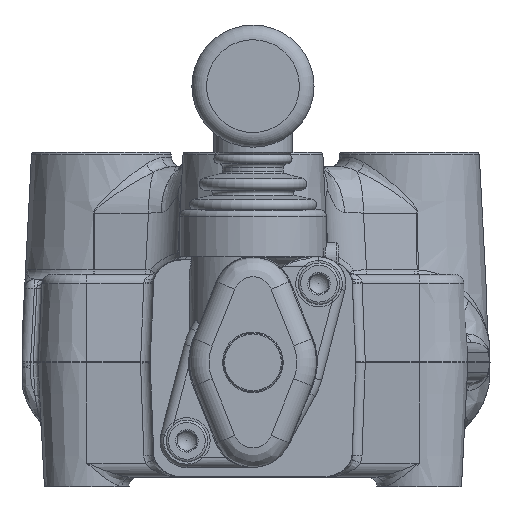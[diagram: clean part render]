
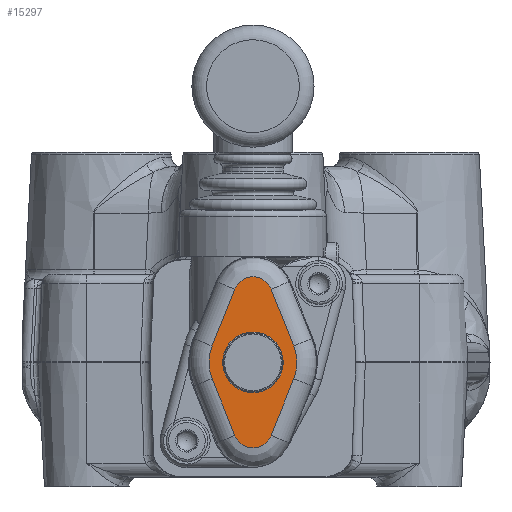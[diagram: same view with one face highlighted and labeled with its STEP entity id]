
A CAD part, front view. The second image highlights one B-rep face of the part: STEP entity #15297.
In plain terms, the highlighted planar face has unit normal (0, -1, 0).
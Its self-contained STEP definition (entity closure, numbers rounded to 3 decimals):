
#495=FACE_BOUND('',#3196,.T.);
#660=PLANE('',#17010);
#2272=FACE_OUTER_BOUND('',#3195,.T.);
#3195=EDGE_LOOP('',(#12968,#12969,#12970,#12971,#12972,#12973,#12974,#12975));
#3196=EDGE_LOOP('',(#12976,#12977));
#4143=CIRCLE('',#16922,6.2);
#4144=CIRCLE('',#16923,6.2);
#4148=CIRCLE('',#16931,9.);
#4152=CIRCLE('',#16935,4.);
#4156=CIRCLE('',#16941,4.);
#4160=CIRCLE('',#16946,9.);
#4846=LINE('',#44092,#5469);
#4847=LINE('',#44123,#5470);
#4850=LINE('',#44130,#5473);
#4852=LINE('',#44159,#5475);
#5469=VECTOR('',#20640,1000.);
#5470=VECTOR('',#20659,1000.);
#5473=VECTOR('',#20666,1000.);
#5475=VECTOR('',#20684,1000.);
#6800=VERTEX_POINT('',#44076);
#6801=VERTEX_POINT('',#44078);
#6802=VERTEX_POINT('',#44085);
#6805=VERTEX_POINT('',#44090);
#6807=VERTEX_POINT('',#44095);
#6808=VERTEX_POINT('',#44114);
#6811=VERTEX_POINT('',#44121);
#6812=VERTEX_POINT('',#44126);
#6815=VERTEX_POINT('',#44147);
#6816=VERTEX_POINT('',#44152);
#8969=EDGE_CURVE('',#6801,#6800,#4143,.F.);
#8970=EDGE_CURVE('',#6800,#6801,#4144,.F.);
#8975=EDGE_CURVE('',#6802,#6805,#4846,.T.);
#8977=EDGE_CURVE('',#6805,#6807,#4148,.T.);
#8981=EDGE_CURVE('',#6808,#6802,#4152,.T.);
#8983=EDGE_CURVE('',#6807,#6811,#4847,.T.);
#8987=EDGE_CURVE('',#6812,#6808,#4850,.T.);
#8989=EDGE_CURVE('',#6811,#6815,#4156,.T.);
#8993=EDGE_CURVE('',#6816,#6812,#4160,.T.);
#8995=EDGE_CURVE('',#6815,#6816,#4852,.T.);
#12968=ORIENTED_EDGE('',*,*,#8981,.T.);
#12969=ORIENTED_EDGE('',*,*,#8975,.T.);
#12970=ORIENTED_EDGE('',*,*,#8977,.T.);
#12971=ORIENTED_EDGE('',*,*,#8983,.T.);
#12972=ORIENTED_EDGE('',*,*,#8989,.T.);
#12973=ORIENTED_EDGE('',*,*,#8995,.T.);
#12974=ORIENTED_EDGE('',*,*,#8993,.T.);
#12975=ORIENTED_EDGE('',*,*,#8987,.T.);
#12976=ORIENTED_EDGE('',*,*,#8969,.T.);
#12977=ORIENTED_EDGE('',*,*,#8970,.T.);
#15297=ADVANCED_FACE('',(#2272,#495),#660,.T.);
#16922=AXIS2_PLACEMENT_3D('',#44079,#20624,#20625);
#16923=AXIS2_PLACEMENT_3D('',#44080,#20626,#20627);
#16931=AXIS2_PLACEMENT_3D('',#44097,#20645,#20646);
#16935=AXIS2_PLACEMENT_3D('',#44118,#20653,#20654);
#16941=AXIS2_PLACEMENT_3D('',#44149,#20669,#20670);
#16946=AXIS2_PLACEMENT_3D('',#44156,#20679,#20680);
#17010=AXIS2_PLACEMENT_3D('',#44371,#20844,#20845);
#20624=DIRECTION('center_axis',(0.,-1.,0.));
#20625=DIRECTION('ref_axis',(0.,0.,
1.));
#20626=DIRECTION('center_axis',(0.,-1.,0.));
#20627=DIRECTION('ref_axis',(0.,0.,
1.));
#20640=DIRECTION('',(0.37,0.,0.929));
#20645=DIRECTION('center_axis',(0.,-1.,0.));
#20646=DIRECTION('ref_axis',(0.,0.,
1.));
#20653=DIRECTION('center_axis',(0.,-1.,0.));
#20654=DIRECTION('ref_axis',(0.,0.,
1.));
#20659=DIRECTION('',(-0.37,0.,0.929));
#20666=DIRECTION('',(0.37,0.,-0.929));
#20669=DIRECTION('center_axis',(0.,-1.,0.));
#20670=DIRECTION('ref_axis',(0.,0.,
1.));
#20679=DIRECTION('center_axis',(0.,-1.,0.));
#20680=DIRECTION('ref_axis',(0.,0.,
1.));
#20684=DIRECTION('',(-0.37,0.,-0.929));
#20844=DIRECTION('center_axis',(0.,-1.,0.));
#20845=DIRECTION('ref_axis',(0.,0.,
1.));
#44076=CARTESIAN_POINT('',(0.,-104.5,-6.2));
#44078=CARTESIAN_POINT('',(0.,-104.5,6.2));
#44079=CARTESIAN_POINT('Origin',(0.,-104.5,
0.));
#44080=CARTESIAN_POINT('Origin',(0.,-104.5,
0.));
#44085=CARTESIAN_POINT('',(3.716,-104.5,-14.981));
#44090=CARTESIAN_POINT('',(8.36,-104.5,-3.333));
#44092=CARTESIAN_POINT('',(8.36,-104.5,-3.333));
#44095=CARTESIAN_POINT('',(8.36,-104.5,3.333));
#44097=CARTESIAN_POINT('Origin',(0.,-104.5,
0.));
#44114=CARTESIAN_POINT('',(-3.716,-104.5,-14.981));
#44118=CARTESIAN_POINT('Origin',(0.,-104.5,
-13.5));
#44121=CARTESIAN_POINT('',(3.716,-104.5,14.981));
#44123=CARTESIAN_POINT('',(8.36,-104.5,3.333));
#44126=CARTESIAN_POINT('',(-8.36,-104.5,-3.333));
#44130=CARTESIAN_POINT('',(-8.36,-104.5,-3.333));
#44147=CARTESIAN_POINT('',(-3.716,-104.5,14.981));
#44149=CARTESIAN_POINT('Origin',(0.,-104.5,
13.5));
#44152=CARTESIAN_POINT('',(-8.36,-104.5,3.333));
#44156=CARTESIAN_POINT('Origin',(0.,-104.5,
0.));
#44159=CARTESIAN_POINT('',(-8.36,-104.5,3.333));
#44371=CARTESIAN_POINT('Origin',(0.,-104.5,
0.));
